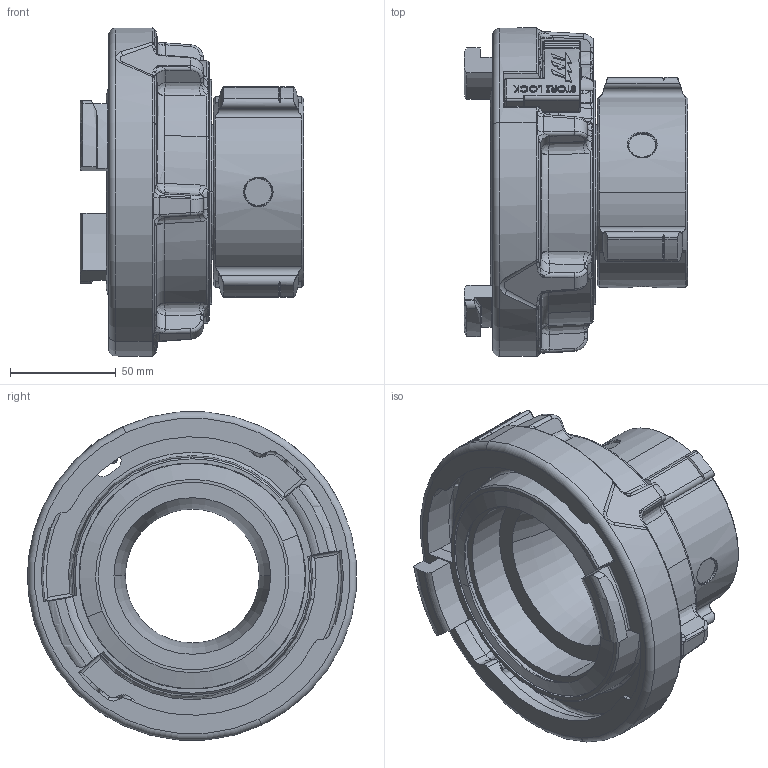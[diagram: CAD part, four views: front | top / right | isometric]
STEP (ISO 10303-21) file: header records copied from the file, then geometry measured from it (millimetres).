
FILE_DESCRIPTION (( 'STEP AP203' ), '1' );
FILE_NAME ('AA1SP-NJ.STEP', '2014-11-07T14:29:44', ( '' ), ( '' ), 'SwSTEP 2.0', 'SolidWorks 2014', '' );
FILE_SCHEMA (( 'CONFIG_CONTROL_DESIGN' ));
Products named in the file (1): AA1SP-NJ
Bounding box: 105.98 x 155.7 x 155.55 mm (x, y, z)
Surface area: 127075.1 mm2 (no closed solid volume)
Topology: 0 solids, 17 shells, 1004 faces, 3093 edges, 2020 vertices
Faces by surface type: bspline 324, plane 286, cylinder 235, torus 81, cone 77, sphere 1
Entity records: 55984 total; most frequent: CARTESIAN_POINT 32457, ORIENTED_EDGE 5352, DIRECTION 3836, EDGE_CURVE 3075, VERTEX_POINT 2019, AXIS2_PLACEMENT_3D 1380, LINE 1076, VECTOR 1076
